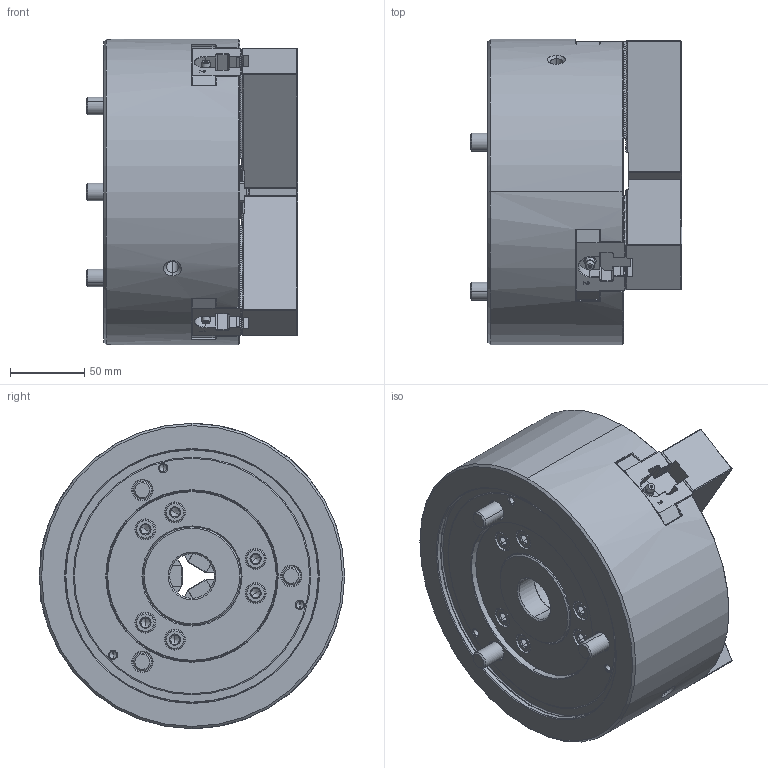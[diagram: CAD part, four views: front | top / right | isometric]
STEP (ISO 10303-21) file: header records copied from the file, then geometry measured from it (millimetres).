
FILE_DESCRIPTION (( 'STEP AP203' ), '1' );
FILE_NAME ('B-208M_HOL.STEP', '2025-09-05T09:34:31', ( '' ), ( '' ), 'SwSTEP 2.0', 'SolidWorks 2022', '' );
FILE_SCHEMA (( 'CONFIG_CONTROL_DESIGN' ));
Length unit declared in the file: millimetre
Products named in the file (9): Copy of DEV-B-208M-ソフトジョー^DEV-B-208M-クミタテ; Part1^DEV-B-208M-クミタテ; Copy of DEV-B-208M-カバー^DEV-B-208M-クミタテ; Copy of DEV-B-208M-Tナット^DEV-B-208M-クミタテ; Copy of DEV-B-208M-ドローナット^DEV-B-208M-クミタテ_ねじ切りなし; Copy of DEV-B-208M-Bアナツキボタン M5x10^DEV-B-208M-クミタテ; Copy of DEV-B-208M-Bアナツキ M12x90^DEV-B-208M-クミタテ; B-208M_HOL; Copy of DEV-B-208M-Bアナツキ M12x30^DEV-B-208M-クミタテ
Assembly tree (21 placements, depth 2):
  B-208M_HOL
    Copy of DEV-B-208M-Bアナツキボタン M5x10^DEV-B-208M-クミタテ  x3
    Copy of DEV-B-208M-Bアナツキ M12x30^DEV-B-208M-クミタテ  x6
    Copy of DEV-B-208M-Bアナツキ M12x90^DEV-B-208M-クミタテ  x3
    Copy of DEV-B-208M-ソフトジョー^DEV-B-208M-クミタテ  x3
    Copy of DEV-B-208M-Tナット^DEV-B-208M-クミタテ  x3
    Copy of DEV-B-208M-ドローナット^DEV-B-208M-クミタテ_ねじ切りなし
    Copy of DEV-B-208M-カバー^DEV-B-208M-クミタテ
    Part1^DEV-B-208M-クミタテ
Bounding box: 142.2 x 205 x 205 mm (x, y, z)
Volume: 2980778.1 mm3; surface area: 329048.7 mm2
Topology: 21 solids, 33 shells, 4066 faces, 11357 edges, 7406 vertices
Faces by surface type: plane 2510, cylinder 978, cone 348, bspline 156, torus 66, sphere 8
Entity records: 92250 total; most frequent: CARTESIAN_POINT 24497, ORIENTED_EDGE 14798, DIRECTION 12455, EDGE_CURVE 7399, VECTOR 5361, LINE 5361, VERTEX_POINT 4835, AXIS2_PLACEMENT_3D 3547
